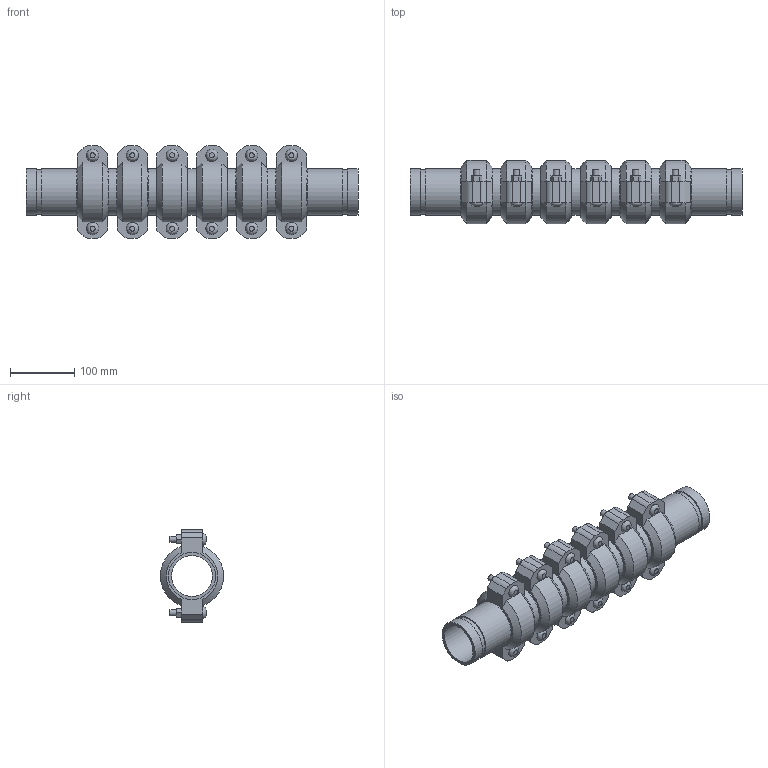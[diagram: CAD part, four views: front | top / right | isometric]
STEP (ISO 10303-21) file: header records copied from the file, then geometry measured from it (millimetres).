
FILE_DESCRIPTION(/* description */ ('VIC SS EXPANSION JOINT 6 COUPLINGS EXPANDED STYLE 155P (OGS) (POTABLE WATER) ','CAx-IF Rec.Pracs.---Representation and Presentation of Product Manufacturing Information (PMI)---4.0---2014-10-13'),/* implementation_level */ '2;1');
FILE_NAME(/* name */ 'C:\Users\kkamble\AppData\Roaming\Autodesk\ApplicationPlugins\Victaulic.Temp\A22\Victaulic_SS_Expansion Joint_Expanded_6 Couplings_Style 155P (OGS)-Potable Water_6 Coup_Expd_2.5 (65).stp',/* time_stamp */ '2021-07-16T16:53:53+05:00',/* author */ ('kkamble'),/* organization */ ('Victaulic'),/* preprocessor_version */ 'ST-DEVELOPER v17.2',/* originating_system */ 'Autodesk Inventor 2019',/* authorisation */ '');
FILE_SCHEMA (('AP242_MANAGED_MODEL_BASED_3D_ENGINEERING_MIM_LF { 1 0 10303 442 1 1 4 }'));
Length unit declared in the file: inch
Products named in the file (4): 155-02.5; Nipple-02.5; Nipple-02.5_1; 075-02.5
Assembly tree (13 placements, depth 2):
  155-02.5
    Nipple-02.5  x2
    Nipple-02.5_1  x5
    075-02.5  x6
Bounding box: 517.4 x 98.22 x 144.27 mm (x, y, z)
Volume: 1765113.6 mm3; surface area: 507377.4 mm2
Topology: 13 solids, 25 shells, 426 faces, 1008 edges, 708 vertices
Faces by surface type: plane 258, cylinder 132, cone 24, bspline 12
Full cylindrical faces by diameter (mm): 9.525 x24, 11.43 x12, 63.475 x7, 66.675 x6, 69.088 x14, 73.025 x33
Entity records: 2808 total; most frequent: CARTESIAN_POINT 497, DIRECTION 469, ORIENTED_EDGE 386, EDGE_CURVE 193, AXIS2_PLACEMENT_3D 188, VERTEX_POINT 138, EDGE_LOOP 107, LINE 93
